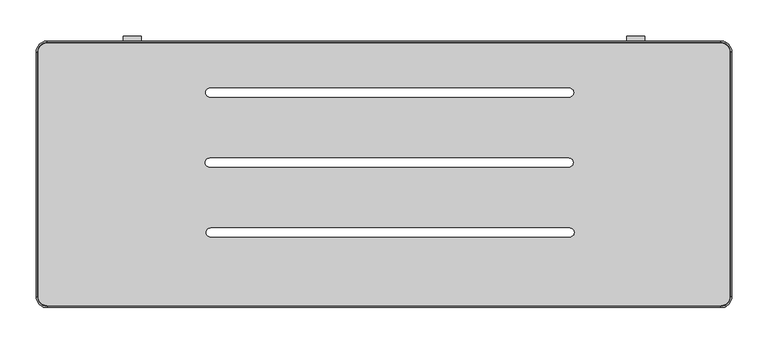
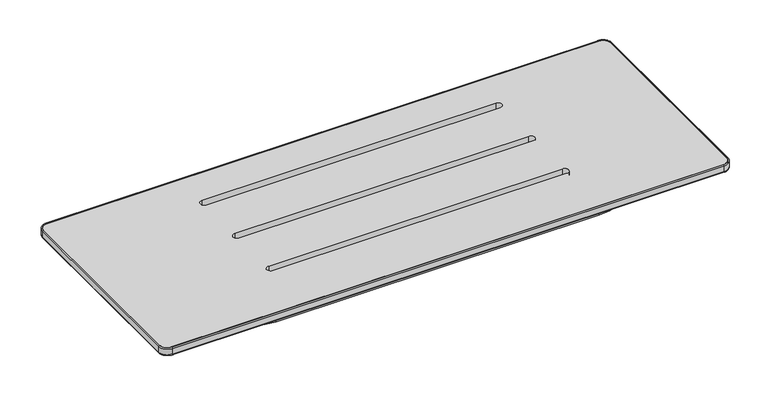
"""IFC4 building model written with IfcOpenShell, lengths in millimetres: proxy geometry, Shower Seat_Metlam_Folding_Support Legs and Handle : 960w x 400d x 480h (ML995_PH)."""

from ifc_helpers import new_model, si_unit, point, frame, frame_2d, origin, place, context, project, spatial, polyline, circle_curve, ellipse_curve, trimmed, segment, composite_curve, outline, extrude, source, transform, mapped, element, save
from ifc_brep_helpers import plane_surface, cylinder_surface, revolved_surface, advanced_brep


def specialty_equipment_d1b62675(model_context):
    return source(origin(), model_context, "Body", "SolidModel", [
        advanced_brep(
        [(285.1717474, -605.8995044, 468.4886299), (270.1717474, -620.8995044, 468.4886299), (270.1717474, -619.3995044, 466.9886299), (283.6717474, -605.8995044, 466.9886299), (285.1717474, -605.8995044, 478.5), (270.1717474, -620.8995044, 478.5), (283.6717474, -605.8995044, 480.0), (270.1717474, -619.3995044, 480.0), (282.6717474, -605.8995044, 466.9886299), (270.1717474, -618.3995044, 466.9886299), (270.1717474, -618.3995044, 480.0), (282.6717474, -605.8995044, 480.0), (283.6717474, -267.8538152, 466.9886299), (285.1717474, -267.8538152, 468.4886299), (285.1717474, -267.8538152, 478.5), (283.6717474, -267.8538152, 480.0), (282.6717474, -267.8538152, 480.0), (282.6717474, -267.8538152, 466.9886299), (270.1717474, -252.8538152, 468.4886299), (270.1717474, -254.3538152, 466.9886299), (270.1717474, -252.8538152, 478.5), (270.1717474, -254.3538152, 480.0), (270.1717474, -255.3538152, 466.9886299), (270.1717474, -255.3538152, 480.0), (-659.8282526, -254.3538152, 466.9886299), (-659.8282526, -252.8538152, 468.4886299), (-659.8282526, -252.8538152, 478.5), (-659.8282526, -254.3538152, 480.0), (-659.8282526, -255.3538152, 480.0), (-659.8282526, -255.3538152, 466.9886299), (-674.8282526, -267.8538152, 468.4886299), (-673.3282526, -267.8538152, 466.9886299), (-674.8282526, -267.8538152, 478.5), (-673.3282526, -267.8538152, 480.0), (-672.3282526, -267.8538152, 466.9886299), (-672.3282526, -267.8538152, 480.0), (-673.3282526, -605.8995044, 466.9886299), (-674.8282526, -605.8995044, 468.4886299), (-674.8282526, -605.8995044, 478.5), (-673.3282526, -605.8995044, 480.0), (-672.3282526, -605.8995044, 480.0), (-672.3282526, -605.8995044, 466.9886299), (-659.8282526, -620.8995044, 468.4886299), (-659.8282526, -619.3995044, 466.9886299), (-659.8282526, -620.8995044, 478.5), (-659.8282526, -619.3995044, 480.0), (-659.8282526, -618.3995044, 466.9886299), (-659.8282526, -618.3995044, 480.0)],
        [
            (0, 1, circle_curve(frame((270.1717474, -605.8995044, 468.4886299), z_axis=(0.0, 0.0, -1.0), x_axis=(0.0, -1.0, 0.0)), 15.0)),
            (1, 2, circle_curve(frame((270.1717474, -619.3995044, 468.4886299), z_axis=(1.0, 0.0, 0.0), x_axis=(0.0, 1.0, 0.0)), 1.5)),
            (2, 3, circle_curve(frame((270.1717474, -605.8995044, 466.9886299), z_axis=(0.0, 0.0, 1.0), x_axis=(0.0, -1.0, 0.0)), 13.5)),
            (3, 0, circle_curve(frame((283.6717474, -605.8995044, 468.4886299), z_axis=(0.0, -1.0, 0.0), x_axis=(-1.0, 0.0, 0.0)), 1.5)),
            (4, 5, circle_curve(frame((270.1717474, -605.8995044, 478.5), z_axis=(0.0, 0.0, -1.0), x_axis=(0.0, -1.0, 0.0)), 15.0)),
            (5, 1),
            (0, 4),
            (6, 7, circle_curve(frame((270.1717474, -605.8995044, 480.0), z_axis=(0.0, 0.0, -1.0), x_axis=(0.0, -1.0, 0.0)), 13.5)),
            (7, 5, circle_curve(frame((270.1717474, -619.3995044, 478.5), z_axis=(1.0, 0.0, 0.0), x_axis=(0.0, 1.0, 0.0)), 1.5)),
            (4, 6, circle_curve(frame((283.6717474, -605.8995044, 478.5), z_axis=(0.0, -1.0, 0.0), x_axis=(-1.0, 0.0, 0.0)), 1.5)),
            (8, 9, circle_curve(frame((270.1717474, -605.8995044, 466.9886299), z_axis=(0.0, 0.0, -1.0), x_axis=(0.0, -1.0, 0.0)), 12.5)),
            (9, 10),
            (10, 11, circle_curve(frame((270.1717474, -605.8995044, 480.0), z_axis=(0.0, 0.0, 1.0), x_axis=(0.0, -1.0, 0.0)), 12.5)),
            (11, 8),
            (3, 12),
            (12, 13, circle_curve(frame((283.6717474, -267.8538152, 468.4886299), z_axis=(0.0, -1.0, 0.0), x_axis=(-1.0, 0.0, 0.0)), 1.5)),
            (13, 0),
            (13, 14),
            (14, 4),
            (14, 15, circle_curve(frame((283.6717474, -267.8538152, 478.5), z_axis=(0.0, -1.0, 0.0), x_axis=(-1.0, 0.0, 0.0)), 1.5)),
            (15, 6),
            (11, 16),
            (16, 17),
            (17, 8),
            (18, 13, circle_curve(frame((270.1717474, -267.8538152, 468.4886299), z_axis=(0.0, 0.0, -1.0), x_axis=(1.0, 0.0, 0.0)), 15.0)),
            (12, 19, circle_curve(frame((270.1717474, -267.8538152, 466.9886299), z_axis=(0.0, 0.0, 1.0), x_axis=(1.0, 0.0, 0.0)), 13.5)),
            (19, 18, circle_curve(frame((270.1717474, -254.3538152, 468.4886299), z_axis=(1.0, 0.0, 0.0), x_axis=(0.0, -1.0, 0.0)), 1.5)),
            (20, 14, circle_curve(frame((270.1717474, -267.8538152, 478.5), z_axis=(0.0, 0.0, -1.0), x_axis=(1.0, 0.0, 0.0)), 15.0)),
            (18, 20),
            (21, 15, circle_curve(frame((270.1717474, -267.8538152, 480.0), z_axis=(0.0, 0.0, -1.0), x_axis=(1.0, 0.0, 0.0)), 13.5)),
            (20, 21, circle_curve(frame((270.1717474, -254.3538152, 478.5), z_axis=(1.0, 0.0, 0.0), x_axis=(0.0, -1.0, 0.0)), 1.5)),
            (22, 17, circle_curve(frame((270.1717474, -267.8538152, 466.9886299), z_axis=(0.0, 0.0, -1.0), x_axis=(1.0, 0.0, 0.0)), 12.5)),
            (16, 23, circle_curve(frame((270.1717474, -267.8538152, 480.0), z_axis=(0.0, 0.0, 1.0), x_axis=(1.0, 0.0, 0.0)), 12.5)),
            (23, 22),
            (19, 24),
            (24, 25, circle_curve(frame((-659.8282526, -254.3538152, 468.4886299), z_axis=(1.0, 0.0, 0.0), x_axis=(0.0, -1.0, 0.0)), 1.5)),
            (25, 18),
            (25, 26),
            (26, 20),
            (26, 27, circle_curve(frame((-659.8282526, -254.3538152, 478.5), z_axis=(1.0, 0.0, 0.0), x_axis=(0.0, -1.0, 0.0)), 1.5)),
            (27, 21),
            (23, 28),
            (28, 29),
            (29, 22),
            (30, 25, circle_curve(frame((-659.8282526, -267.8538152, 468.4886299), z_axis=(0.0, 0.0, -1.0), x_axis=(0.0, 1.0, 0.0)), 15.0)),
            (24, 31, circle_curve(frame((-659.8282526, -267.8538152, 466.9886299), z_axis=(0.0, 0.0, 1.0), x_axis=(0.0, 1.0, 0.0)), 13.5)),
            (31, 30, circle_curve(frame((-673.3282526, -267.8538152, 468.4886299), z_axis=(0.0, 1.0, 0.0), x_axis=(1.0, 0.0, 0.0)), 1.5)),
            (32, 26, circle_curve(frame((-659.8282526, -267.8538152, 478.5), z_axis=(0.0, 0.0, -1.0), x_axis=(0.0, 1.0, 0.0)), 15.0)),
            (30, 32),
            (33, 27, circle_curve(frame((-659.8282526, -267.8538152, 480.0), z_axis=(0.0, 0.0, -1.0), x_axis=(0.0, 1.0, 0.0)), 13.5)),
            (32, 33, circle_curve(frame((-673.3282526, -267.8538152, 478.5), z_axis=(0.0, 1.0, 0.0), x_axis=(1.0, 0.0, 0.0)), 1.5)),
            (34, 29, circle_curve(frame((-659.8282526, -267.8538152, 466.9886299), z_axis=(0.0, 0.0, -1.0), x_axis=(0.0, 1.0, 0.0)), 12.5)),
            (28, 35, circle_curve(frame((-659.8282526, -267.8538152, 480.0), z_axis=(0.0, 0.0, 1.0), x_axis=(0.0, 1.0, 0.0)), 12.5)),
            (35, 34),
            (31, 36),
            (36, 37, circle_curve(frame((-673.3282526, -605.8995044, 468.4886299), z_axis=(0.0, 1.0, 0.0), x_axis=(1.0, 0.0, 0.0)), 1.5)),
            (37, 30),
            (37, 38),
            (38, 32),
            (38, 39, circle_curve(frame((-673.3282526, -605.8995044, 478.5), z_axis=(0.0, 1.0, 0.0), x_axis=(1.0, 0.0, 0.0)), 1.5)),
            (39, 33),
            (35, 40),
            (40, 41),
            (41, 34),
            (42, 37, circle_curve(frame((-659.8282526, -605.8995044, 468.4886299), z_axis=(0.0, 0.0, -1.0), x_axis=(-1.0, 0.0, 0.0)), 15.0)),
            (36, 43, circle_curve(frame((-659.8282526, -605.8995044, 466.9886299), z_axis=(0.0, 0.0, 1.0), x_axis=(-1.0, 0.0, 0.0)), 13.5)),
            (43, 42, circle_curve(frame((-659.8282526, -619.3995044, 468.4886299), z_axis=(-1.0, 0.0, 0.0), x_axis=(0.0, 1.0, 0.0)), 1.5)),
            (44, 38, circle_curve(frame((-659.8282526, -605.8995044, 478.5), z_axis=(0.0, 0.0, -1.0), x_axis=(-1.0, 0.0, 0.0)), 15.0)),
            (42, 44),
            (45, 39, circle_curve(frame((-659.8282526, -605.8995044, 480.0), z_axis=(0.0, 0.0, -1.0), x_axis=(-1.0, 0.0, 0.0)), 13.5)),
            (44, 45, circle_curve(frame((-659.8282526, -619.3995044, 478.5), z_axis=(-1.0, 0.0, 0.0), x_axis=(0.0, 1.0, 0.0)), 1.5)),
            (46, 41, circle_curve(frame((-659.8282526, -605.8995044, 466.9886299), z_axis=(0.0, 0.0, -1.0), x_axis=(-1.0, 0.0, 0.0)), 12.5)),
            (40, 47, circle_curve(frame((-659.8282526, -605.8995044, 480.0), z_axis=(0.0, 0.0, 1.0), x_axis=(-1.0, 0.0, 0.0)), 12.5)),
            (47, 46),
            (2, 43),
            (46, 9),
            (1, 42),
            (5, 44),
            (7, 45),
            (10, 47),
        ],
        [
            revolved_surface(trimmed(ellipse_curve(frame((270.1717474, -619.3995044, 468.4886299), z_axis=(-1.0, 0.0, 0.0), x_axis=(0.0, 1.0, 0.0)), 1.5, 1.5), [point((270.1717474, -619.3995044, 466.9886299))], [point((270.1717474, -620.8995044, 468.4886299))], True, "CARTESIAN"), (270.1717474, -605.8995044, 480.0), (0.0, 0.0, 1.0)),
            cylinder_surface(frame((270.1717474, -605.8995044, 480.0), z_axis=(0.0, 0.0, 1.0), x_axis=(0.0, -1.0, 0.0)), 15.0),
            revolved_surface(trimmed(ellipse_curve(frame((270.1717474, -619.3995044, 478.5), z_axis=(-1.0, 0.0, 0.0), x_axis=(0.0, 1.0, 0.0)), 1.5, 1.5), [point((270.1717474, -620.8995044, 478.5))], [point((270.1717474, -619.3995044, 480.0))], True, "CARTESIAN"), (270.1717474, -605.8995044, 480.0), (0.0, 0.0, 1.0)),
            revolved_surface(polyline([(270.1717474, -618.3995044, 480.0), (270.1717474, -618.3995044, 466.9886299)]), (270.1717474, -605.8995044, 480.0), (0.0, 0.0, 1.0)),
            cylinder_surface(frame((283.6717474, -605.8995044, 468.4886299), z_axis=(0.0, -1.0, 0.0), x_axis=(-1.0, 0.0, 0.0)), 1.5),
            plane_surface(frame((285.1717474, -605.8995044, 468.4886299), z_axis=(1.0, 0.0, 0.0), x_axis=(0.0, 1.0, 0.0))),
            cylinder_surface(frame((283.6717474, -605.8995044, 478.5), z_axis=(0.0, -1.0, 0.0), x_axis=(-1.0, 0.0, 0.0)), 1.5),
            plane_surface(frame((282.6717474, -605.8995044, 480.0), z_axis=(-1.0, 0.0, 0.0), x_axis=(0.0, 1.0, 0.0))),
            revolved_surface(trimmed(ellipse_curve(frame((283.6717474, -267.8538152, 468.4886299), z_axis=(0.0, -1.0, 0.0), x_axis=(-1.0, 0.0, 0.0)), 1.5, 1.5), [point((283.6717474, -267.8538152, 466.9886299))], [point((285.1717474, -267.8538152, 468.4886299))], True, "CARTESIAN"), (270.1717474, -267.8538152, 480.0), (0.0, 0.0, 1.0)),
            cylinder_surface(frame((270.1717474, -267.8538152, 480.0), z_axis=(0.0, 0.0, 1.0), x_axis=(1.0, 0.0, 0.0)), 15.0),
            revolved_surface(trimmed(ellipse_curve(frame((283.6717474, -267.8538152, 478.5), z_axis=(0.0, -1.0, 0.0), x_axis=(-1.0, 0.0, 0.0)), 1.5, 1.5), [point((285.1717474, -267.8538152, 478.5))], [point((283.6717474, -267.8538152, 480.0))], True, "CARTESIAN"), (270.1717474, -267.8538152, 480.0), (0.0, 0.0, 1.0)),
            revolved_surface(polyline([(282.6717474, -267.8538152, 480.0), (282.6717474, -267.8538152, 466.9886299)]), (270.1717474, -267.8538152, 480.0), (0.0, 0.0, 1.0)),
            cylinder_surface(frame((270.1717474, -254.3538152, 468.4886299), z_axis=(1.0, 0.0, 0.0), x_axis=(0.0, -1.0, 0.0)), 1.5),
            plane_surface(frame((270.1717474, -252.8538152, 468.4886299), z_axis=(0.0, 1.0, 0.0), x_axis=(-1.0, 0.0, 0.0))),
            cylinder_surface(frame((270.1717474, -254.3538152, 478.5), z_axis=(1.0, 0.0, 0.0), x_axis=(0.0, -1.0, 0.0)), 1.5),
            plane_surface(frame((270.1717474, -255.3538152, 480.0), z_axis=(0.0, -1.0, 0.0), x_axis=(-1.0, 0.0, 0.0))),
            revolved_surface(trimmed(ellipse_curve(frame((-659.8282526, -254.3538152, 468.4886299), z_axis=(1.0, 0.0, 0.0), x_axis=(0.0, -1.0, 0.0)), 1.5, 1.5), [point((-659.8282526, -254.3538152, 466.9886299))], [point((-659.8282526, -252.8538152, 468.4886299))], True, "CARTESIAN"), (-659.8282526, -267.8538152, 480.0), (0.0, 0.0, 1.0)),
            cylinder_surface(frame((-659.8282526, -267.8538152, 480.0), z_axis=(0.0, 0.0, 1.0), x_axis=(0.0, 1.0, 0.0)), 15.0),
            revolved_surface(trimmed(ellipse_curve(frame((-659.8282526, -254.3538152, 478.5), z_axis=(1.0, 0.0, 0.0), x_axis=(0.0, -1.0, 0.0)), 1.5, 1.5), [point((-659.8282526, -252.8538152, 478.5))], [point((-659.8282526, -254.3538152, 480.0))], True, "CARTESIAN"), (-659.8282526, -267.8538152, 480.0), (0.0, 0.0, 1.0)),
            revolved_surface(polyline([(-659.8282526, -255.35381519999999, 480.0), (-659.8282526, -255.35381519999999, 466.9886299)]), (-659.8282526, -267.8538152, 480.0), (0.0, 0.0, 1.0)),
            cylinder_surface(frame((-673.3282526, -267.8538152, 468.4886299), z_axis=(0.0, 1.0, 0.0), x_axis=(1.0, 0.0, 0.0)), 1.5),
            plane_surface(frame((-674.8282526, -267.8538152, 468.4886299), z_axis=(-1.0, 0.0, 0.0), x_axis=(0.0, -1.0, 0.0))),
            cylinder_surface(frame((-673.3282526, -267.8538152, 478.5), z_axis=(0.0, 1.0, 0.0), x_axis=(1.0, 0.0, 0.0)), 1.5),
            plane_surface(frame((-672.3282526, -267.8538152, 480.0), z_axis=(1.0, 0.0, 0.0), x_axis=(0.0, -1.0, 0.0))),
            revolved_surface(trimmed(ellipse_curve(frame((-673.3282526, -605.8995044, 468.4886299), z_axis=(0.0, 1.0, 0.0), x_axis=(1.0, 0.0, 0.0)), 1.5, 1.5), [point((-673.3282526, -605.8995044, 466.9886299))], [point((-674.8282526, -605.8995044, 468.4886299))], True, "CARTESIAN"), (-659.8282526, -605.8995044, 480.0), (0.0, 0.0, 1.0)),
            cylinder_surface(frame((-659.8282526, -605.8995044, 480.0), z_axis=(0.0, 0.0, 1.0), x_axis=(-1.0, 0.0, 0.0)), 15.0),
            revolved_surface(trimmed(ellipse_curve(frame((-673.3282526, -605.8995044, 478.5), z_axis=(0.0, 1.0, 0.0), x_axis=(1.0, 0.0, 0.0)), 1.5, 1.5), [point((-674.8282526, -605.8995044, 478.5))], [point((-673.3282526, -605.8995044, 480.0))], True, "CARTESIAN"), (-659.8282526, -605.8995044, 480.0), (0.0, 0.0, 1.0)),
            revolved_surface(polyline([(-672.3282526, -605.8995044, 480.0), (-672.3282526, -605.8995044, 466.9886299)]), (-659.8282526, -605.8995044, 480.0), (0.0, 0.0, 1.0)),
            plane_surface(frame((-659.8282526, -618.3995044, 466.9886299), z_axis=(0.0, 0.0, -1.0), x_axis=(1.0, 0.0, 0.0))),
            cylinder_surface(frame((-659.8282526, -619.3995044, 468.4886299), z_axis=(-1.0, 0.0, 0.0), x_axis=(0.0, 1.0, 0.0)), 1.5),
            plane_surface(frame((-659.8282526, -620.8995044, 468.4886299), z_axis=(0.0, -1.0, 0.0), x_axis=(1.0, 0.0, 0.0))),
            cylinder_surface(frame((-659.8282526, -619.3995044, 478.5), z_axis=(-1.0, 0.0, 0.0), x_axis=(0.0, 1.0, 0.0)), 1.5),
            plane_surface(frame((-659.8282526, -619.3995044, 480.0), z_axis=(0.0, 0.0, 1.0), x_axis=(1.0, 0.0, 0.0))),
            plane_surface(frame((-659.8282526, -618.3995044, 480.0), z_axis=(0.0, 1.0, 0.0), x_axis=(1.0, 0.0, 0.0))),
        ],
        [
            (0, [[1, 2, 3, 4]]),
            (1, [[5, 6, -1, 7]]),
            (2, [[8, 9, -5, 10]]),
            (3, [[11, 12, 13, 14]]),
            (4, [[-4, 15, 16, 17]]),
            (5, [[-7, -17, 18, 19]]),
            (6, [[-10, -19, 20, 21]]),
            (7, [[-14, 22, 23, 24]]),
            (8, [[25, -16, 26, 27]]),
            (9, [[28, -18, -25, 29]]),
            (10, [[30, -20, -28, 31]]),
            (11, [[32, -23, 33, 34]]),
            (12, [[-27, 35, 36, 37]]),
            (13, [[-29, -37, 38, 39]]),
            (14, [[-31, -39, 40, 41]]),
            (15, [[-34, 42, 43, 44]]),
            (16, [[45, -36, 46, 47]]),
            (17, [[48, -38, -45, 49]]),
            (18, [[50, -40, -48, 51]]),
            (19, [[52, -43, 53, 54]]),
            (20, [[-47, 55, 56, 57]]),
            (21, [[-49, -57, 58, 59]]),
            (22, [[-51, -59, 60, 61]]),
            (23, [[-54, 62, 63, 64]]),
            (24, [[65, -56, 66, 67]]),
            (25, [[68, -58, -65, 69]]),
            (26, [[70, -60, -68, 71]]),
            (27, [[72, -63, 73, 74]]),
            (28, [[75, -66, -55, -46, -35, -26, -15, -3], [-64, -72, 76, -11, -24, -32, -44, -52]]),
            (29, [[-67, -75, -2, 77]]),
            (30, [[-69, -77, -6, 78]]),
            (31, [[-71, -78, -9, 79]]),
            (32, [[-61, -70, -79, -8, -21, -30, -41, -50], [80, -73, -62, -53, -42, -33, -22, -13]]),
            (33, [[-74, -80, -12, -76]]),
        ],
    ),
        extrude(outline(composite_curve([segment(polyline([(140.1717474, -245.8995044), (165.1717474, -245.8995044), (165.1717474, -502.8538152)]), True, "CONTINUOUS"), segment(trimmed(circle_curve(frame_2d((77.6717474, -502.8538152)), 87.5), [point((165.1717474, -502.8538152))], [point((77.6717474, -590.3538152))], False, "CARTESIAN"), True, "CONTINUOUS"), segment(polyline([(77.6717474, -590.3538152), (-467.3282526, -590.3538152)]), True, "CONTINUOUS"), segment(trimmed(circle_curve(frame_2d((-467.3282526, -502.8538152)), 87.5), [point((-467.3282526, -590.3538152))], [point((-554.8282526, -502.8538152))], False, "CARTESIAN"), True, "CONTINUOUS"), segment(polyline([(-554.8282526, -502.8538152), (-554.8282526, -245.8995044), (-529.8282526, -245.8995044), (-529.8282526, -502.8538152)]), True, "CONTINUOUS"), segment(trimmed(circle_curve(frame_2d((-467.3282526, -502.8538152)), 62.5), [point((-529.8282526, -502.8538152))], [point((-467.3282526, -565.3538152))], True, "CARTESIAN"), True, "CONTINUOUS"), segment(polyline([(-467.3282526, -565.3538152), (77.6717474, -565.3538152)]), True, "CONTINUOUS"), segment(trimmed(circle_curve(frame_2d((77.6717474, -502.8538152)), 62.5), [point((77.6717474, -565.3538152))], [point((140.1717474, -502.8538152))], True, "CARTESIAN"), True, "CONTINUOUS"), segment(polyline([(140.1717474, -502.8538152), (140.1717474, -245.8995044)]), True, "CONTINUOUS")], self_intersect=False)), frame((0.0, 0.0, 440.5321543), z_axis=(0.0, 0.0, 1.0), x_axis=(1.0, 0.0, 0.0)), (0.0, 0.0, 1.0), 26.4564757),
        extrude(outline(composite_curve([segment(trimmed(circle_curve(frame_2d((-659.8282526, -267.8538152)), 12.5), [point((-672.3282526, -267.8538152))], [point((-659.8282526, -255.3538152))], False, "CARTESIAN"), True, "CONTINUOUS"), segment(polyline([(-659.8282526, -255.3538152), (270.1717474, -255.3538152)]), True, "CONTINUOUS"), segment(trimmed(circle_curve(frame_2d((270.1717474, -267.8538152)), 12.5), [point((270.1717474, -255.3538152))], [point((282.6717474, -267.8538152))], False, "CARTESIAN"), True, "CONTINUOUS"), segment(polyline([(282.6717474, -267.8538152), (282.6717474, -605.8995044)]), True, "CONTINUOUS"), segment(trimmed(circle_curve(frame_2d((270.1717474, -605.8995044)), 12.5), [point((282.6717474, -605.8995044))], [point((270.1717474, -618.3995044))], False, "CARTESIAN"), True, "CONTINUOUS"), segment(polyline([(270.1717474, -618.3995044), (-659.8282526, -618.3995044)]), True, "CONTINUOUS"), segment(trimmed(circle_curve(frame_2d((-659.8282526, -605.8995044)), 12.5), [point((-659.8282526, -618.3995044))], [point((-672.3282526, -605.8995044))], False, "CARTESIAN"), True, "CONTINUOUS"), segment(polyline([(-672.3282526, -605.8995044), (-672.3282526, -267.8538152)]), True, "CONTINUOUS")], self_intersect=False), holes=[composite_curve([segment(polyline([(60.7892459, -317.7550519), (-434.9150613, -317.7550519)]), True, "CONTINUOUS"), segment(trimmed(circle_curve(frame_2d((-434.9150613, -323.8548366)), 6.0997847), [point((-434.9150613, -317.7550519))], [point((-434.9150613, -329.9546213))], True, "CARTESIAN"), True, "CONTINUOUS"), segment(polyline([(-434.9150613, -329.9546213), (60.7892459, -329.9546213)]), True, "CONTINUOUS"), segment(trimmed(circle_curve(frame_2d((60.7892459, -323.8548366)), 6.0997847), [point((60.7892459, -329.9546213))], [point((60.7892459, -317.7550519))], True, "CARTESIAN"), True, "CONTINUOUS")], self_intersect=False), composite_curve([segment(polyline([(60.1257605, -414.6453165), (-435.5785466, -414.6453165)]), True, "CONTINUOUS"), segment(trimmed(circle_curve(frame_2d((-435.5785466, -420.7451013)), 6.0997847), [point((-435.5785466, -414.6453165))], [point((-435.5785466, -426.844886))], True, "CARTESIAN"), True, "CONTINUOUS"), segment(polyline([(-435.5785466, -426.844886), (60.1257605, -426.844886)]), True, "CONTINUOUS"), segment(trimmed(circle_curve(frame_2d((60.1257605, -420.7451013)), 6.0997847), [point((60.1257605, -426.844886))], [point((60.1257605, -414.6453165))], True, "CARTESIAN"), True, "CONTINUOUS")], self_intersect=False), composite_curve([segment(polyline([(61.4546769, -511.2213498), (-434.2496302, -511.2213498)]), True, "CONTINUOUS"), segment(trimmed(circle_curve(frame_2d((-434.2496302, -517.3211345)), 6.0997847), [point((-434.2496302, -511.2213498))], [point((-434.2496302, -523.4209193))], True, "CARTESIAN"), True, "CONTINUOUS"), segment(polyline([(-434.2496302, -523.4209193), (61.4546769, -523.4209193)]), True, "CONTINUOUS"), segment(trimmed(circle_curve(frame_2d((61.4546769, -517.3211345)), 6.0997847), [point((61.4546769, -523.4209193))], [point((61.4546769, -511.2213498))], True, "CARTESIAN"), True, "CONTINUOUS")], self_intersect=False)]), frame((0.0, 0.0, 466.9886299), z_axis=(0.0, 0.0, 1.0), x_axis=(1.0, 0.0, 0.0)), (0.0, 0.0, 1.0), 13.0113701),
    ])


if __name__ == "__main__":
    model = new_model("IFC4")
    model_context = context("Model", 3, world=origin())
    ifc_project = project(units=[si_unit("LENGTHUNIT", "METRE", prefix="MILLI")], contexts=[model_context])
    site = spatial("IfcSite", under=ifc_project)
    building = spatial("IfcBuilding", under=site)
    placement = place(None, origin())
    specialty_equipment_shape = specialty_equipment_d1b62675(model_context)
    element("IfcBuildingElementProxy", 1, Name="Shower Seat_Metlam_Folding_Support Legs and Handle : 960w x 400d x 480h (ML995_PH)", ObjectType="Shower Seat_Metlam_Folding_Support Legs and Handle : 960w x 400d x 480h (ML995_PH)", at=placement, inside=building, context=model_context, shape_type="MappedRepresentation", body=[
        mapped(specialty_equipment_shape, transform((0.0, 0.0, 0.0), x_axis=(1.0, 0.0, 0.0), y_axis=(0.0, 1.0, 0.0), z_axis=(0.0, 0.0, 1.0))),
    ])
    save(model, "model.ifc")
